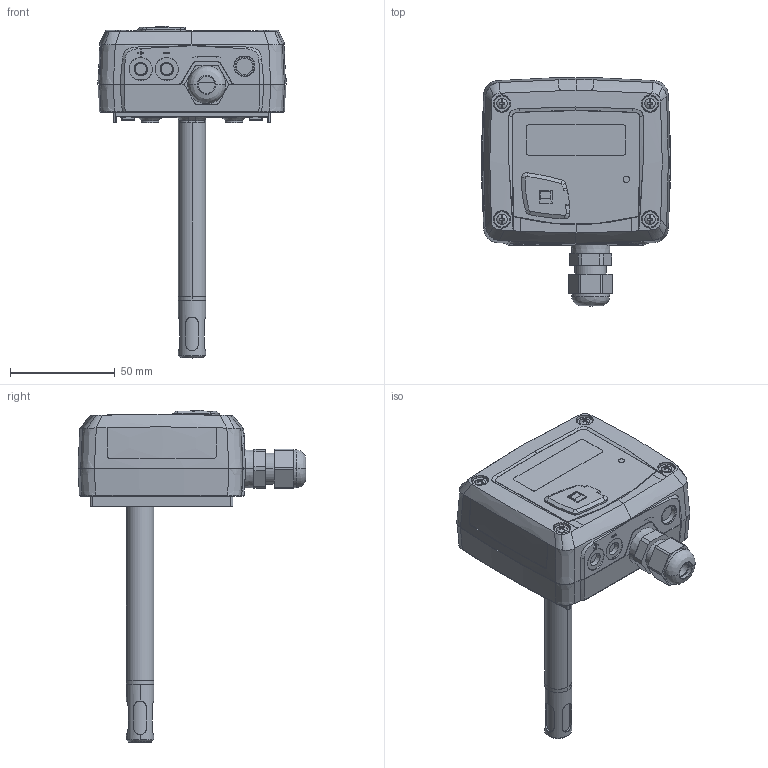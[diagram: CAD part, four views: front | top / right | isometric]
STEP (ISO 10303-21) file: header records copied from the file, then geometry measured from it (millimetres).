
FILE_DESCRIPTION((''),'2;1');
FILE_NAME('TH110_A_SW0001','2016-06-23T',('REFT'),(''),'PRO/ENGINEER BY PARAMETRIC TECHNOLOGY CORPORATION, 2012420','PRO/ENGINEER BY PARAMETRIC TECHNOLOGY CORPORATION, 2012420','');
FILE_SCHEMA(('CONFIG_CONTROL_DESIGN'));
Products named in the file (1): TH110_A_SW0001
Bounding box: 89.77 x 108.64 x 158.21 mm (x, y, z)
Volume: 286491.5 mm3; surface area: 54317.5 mm2
Topology: 1 solids, 2 shells, 1766 faces, 4666 edges, 3027 vertices
Faces by surface type: plane 917, extrusion 341, cylinder 264, bspline 104, cone 97, sphere 24, torus 17, revolution 2
Entity records: 62833 total; most frequent: CARTESIAN_POINT 20984, ORIENTED_EDGE 9328, DIRECTION 7209, EDGE_CURVE 4664, VECTOR 3253, VERTEX_POINT 3027, LINE 2912, AXIS2_PLACEMENT_3D 1977
